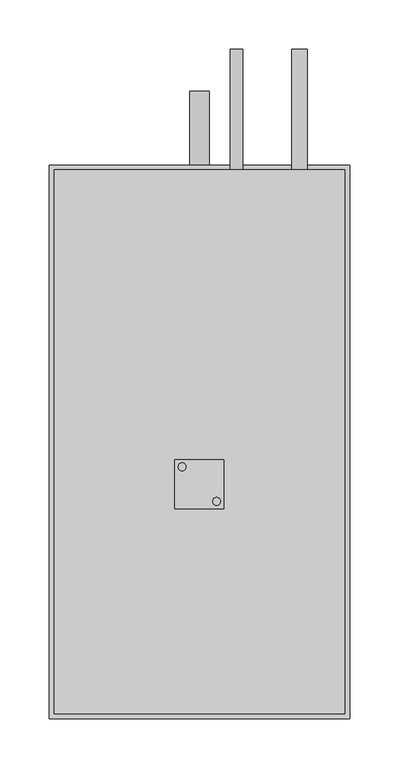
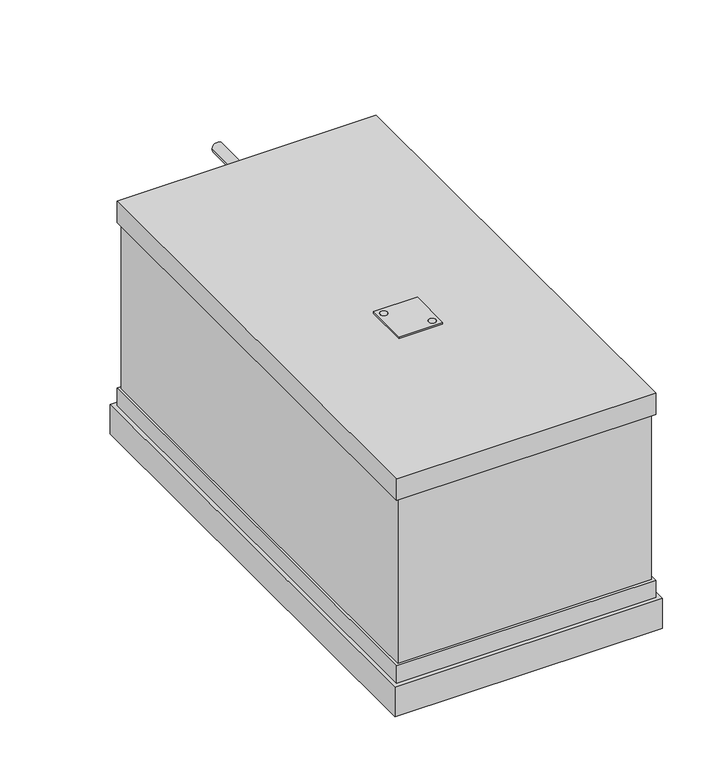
"""IFC4 building model written with IfcOpenShell, lengths in millimetres: proxy geometry, KORF_Воздухоохладитель_Фреоновый_FLO_Правый : FLO 40-20."""

from ifc_helpers import new_model, si_unit, point, frame, frame_2d, origin, place, context, project, spatial, polyline, circle_curve, trimmed, segment, composite_curve, outline, extrude, faceted_brep, source, transform, mapped, element, save


def mechanical_equipment_01a4f095(model_context):
    return source(origin(), model_context, "Body", "SolidModel", [
        extrude(outline(composite_curve([segment(trimmed(circle_curve(frame_2d((170.5727066, -17.5745746)), 4.0), [point((174.5727066, -17.5745746))], [point((166.5727066, -17.5745746))], False, "CARTESIAN"), True, "CONTINUOUS"), segment(trimmed(circle_curve(frame_2d((170.5727066, -17.5745746)), 4.0), [point((166.5727066, -17.5745746))], [point((174.5727066, -17.5745746))], False, "CARTESIAN"), True, "CONTINUOUS")], self_intersect=False)), frame((0.0, 0.0, 126.0), z_axis=(0.0, 0.0, 1.0), x_axis=(1.0, 0.0, 0.0)), (0.0, 0.0, 1.0), 2.0),
        extrude(outline(composite_curve([segment(trimmed(circle_curve(frame_2d((135.4272934, 17.5745746)), 4.0), [point((131.4272934, 17.5745746))], [point((139.4272934, 17.5745746))], False, "CARTESIAN"), True, "CONTINUOUS"), segment(trimmed(circle_curve(frame_2d((135.4272934, 17.5745746)), 4.0), [point((139.4272934, 17.5745746))], [point((131.4272934, 17.5745746))], False, "CARTESIAN"), True, "CONTINUOUS")], self_intersect=False)), frame((0.0, 0.0, 126.0), z_axis=(0.0, 0.0, 1.0), x_axis=(1.0, 0.0, 0.0)), (0.0, 0.0, 1.0), 2.0),
        extrude(outline(polyline([(128.0, -25.0), (128.0, 25.0), (178.0, 25.0), (178.0, -25.0), (128.0, -25.0)]), holes=[composite_curve([segment(trimmed(circle_curve(frame_2d((170.5727066, -17.5745746)), 4.0), [point((174.5727066, -17.5745746))], [point((166.5727066, -17.5745746))], True, "CARTESIAN"), True, "CONTINUOUS"), segment(trimmed(circle_curve(frame_2d((170.5727066, -17.5745746)), 4.0), [point((166.5727066, -17.5745746))], [point((174.5727066, -17.5745746))], True, "CARTESIAN"), True, "CONTINUOUS")], self_intersect=False), composite_curve([segment(trimmed(circle_curve(frame_2d((135.4272934, 17.5745746)), 4.0), [point((131.4272934, 17.5745746))], [point((139.4272934, 17.5745746))], True, "CARTESIAN"), True, "CONTINUOUS"), segment(trimmed(circle_curve(frame_2d((135.4272934, 17.5745746)), 4.0), [point((139.4272934, 17.5745746))], [point((131.4272934, 17.5745746))], True, "CARTESIAN"), True, "CONTINUOUS")], self_intersect=False)]), frame((0.0, 0.0, 126.0), z_axis=(0.0, 0.0, 1.0), x_axis=(1.0, 0.0, 0.0)), (0.0, 0.0, 1.0), 2.0),
        faceted_brep([(306.0, -239.0, -121.0), (306.0, -239.0, -157.0), (306.0, 325.0, -157.0), (306.0, 325.0, -121.0), (0.0, -239.0, -121.0), (0.0, 325.0, -121.0), (0.0, 325.0, -157.0), (0.0, -239.0, -157.0), (301.0, 320.0, -121.0), (301.0, -234.0, -121.0), (5.0, -234.0, -121.0), (5.0, 320.0, -121.0), (298.0, -231.0, 100.0), (298.0, -231.0, -100.0), (298.0, -200.0, -100.0), (298.0, 200.0, -100.0), (298.0, 317.0, -100.0), (298.0, 317.0, 100.0), (298.0, 200.0, 100.0), (298.0, -200.0, 100.0), (8.0, 317.0, 100.0), (8.0, 317.0, -100.0), (8.0, 200.0, -100.0), (8.0, -200.0, -100.0), (8.0, -231.0, -100.0), (8.0, -231.0, 100.0), (8.0, -200.0, 100.0), (8.0, 200.0, 100.0), (301.0, -234.0, 100.0), (301.0, 320.0, 100.0), (301.0, 320.0, 126.0), (301.0, -234.0, 126.0), (301.0, -234.0, -100.0), (301.0, 320.0, -100.0), (5.0, -234.0, 100.0), (5.0, -234.0, 126.0), (5.0, 320.0, 126.0), (5.0, 320.0, 100.0), (5.0, -234.0, -100.0), (5.0, 320.0, -100.0)], [[[0, 1, 2, 3]], [[4, 5, 6, 7]], [[1, 0, 4, 7]], [[2, 1, 7, 6]], [[3, 2, 6, 5]], [[0, 3, 5, 4], [8, 9, 10, 11]], [[12, 13, 14, 15, 16, 17, 18, 19]], [[20, 21, 22, 23, 24, 25, 26, 27]], [[13, 12, 25, 24]], [[17, 16, 21, 20]], [[28, 29, 30, 31]], [[32, 9, 8, 33]], [[34, 35, 36, 37]], [[38, 39, 11, 10]], [[29, 28, 34, 37], [12, 19, 18, 17, 20, 27, 26, 25]], [[30, 29, 37, 36]], [[31, 30, 36, 35]], [[28, 31, 35, 34]], [[9, 32, 38, 10]], [[33, 8, 11, 39]], [[32, 33, 39, 38], [14, 13, 24, 23, 22, 21, 16, 15]]]),
        extrude(outline(composite_curve([segment(trimmed(circle_curve(frame_2d((-49.0, 255.0)), 7.94), [point((-49.0, 247.06))], [point((-49.0, 262.94))], False, "CARTESIAN"), True, "CONTINUOUS"), segment(trimmed(circle_curve(frame_2d((-49.0, 255.0)), 7.94), [point((-49.0, 262.94))], [point((-49.0, 247.06))], False, "CARTESIAN"), True, "CONTINUOUS")], self_intersect=False)), frame((0.0, 317.0, 0.0), z_axis=(0.0, 1.0, 0.0), x_axis=(0.0, 0.0, 1.0)), (0.0, 0.0, 1.0), 126.0),
        extrude(outline(composite_curve([segment(trimmed(circle_curve(frame_2d((51.0, 191.0)), 6.35), [point((51.0, 184.65))], [point((51.0, 197.35))], False, "CARTESIAN"), True, "CONTINUOUS"), segment(trimmed(circle_curve(frame_2d((51.0, 191.0)), 6.35), [point((51.0, 197.35))], [point((51.0, 184.65))], False, "CARTESIAN"), True, "CONTINUOUS")], self_intersect=False)), frame((0.0, 317.0, 0.0), z_axis=(0.0, 1.0, 0.0), x_axis=(0.0, 0.0, 1.0)), (0.0, 0.0, 1.0), 126.0),
        extrude(outline(composite_curve([segment(trimmed(circle_curve(frame_2d((-139.0, 153.0)), 10.0), [point((-139.0, 143.0))], [point((-139.0, 163.0))], False, "CARTESIAN"), True, "CONTINUOUS"), segment(trimmed(circle_curve(frame_2d((-139.0, 153.0)), 10.0), [point((-139.0, 163.0))], [point((-139.0, 143.0))], False, "CARTESIAN"), True, "CONTINUOUS")], self_intersect=False)), frame((0.0, 325.0, 0.0), z_axis=(0.0, 1.0, 0.0), x_axis=(0.0, 0.0, 1.0)), (0.0, 0.0, 1.0), 75.0),
    ])


if __name__ == "__main__":
    model = new_model("IFC4")
    model_context = context("Model", 3, world=origin())
    ifc_project = project(units=[si_unit("LENGTHUNIT", "METRE", prefix="MILLI")], contexts=[model_context])
    site = spatial("IfcSite", under=ifc_project)
    building = spatial("IfcBuilding", under=site)
    placement = place(None, origin())
    mechanical_equipment_shape = mechanical_equipment_01a4f095(model_context)
    element("IfcBuildingElementProxy", 1, Name="KORF_Воздухоохладитель_Фреоновый_FLO_Правый : FLO 40-20", ObjectType="KORF_Воздухоохладитель_Фреоновый_FLO_Правый : FLO 40-20", at=placement, inside=building, context=model_context, shape_type="MappedRepresentation", body=[
        mapped(mechanical_equipment_shape, transform((0.0, 0.0, 0.0), x_axis=(1.0, 0.0, 0.0), y_axis=(0.0, 1.0, 0.0), z_axis=(0.0, 0.0, 1.0))),
    ])
    save(model, "model.ifc")
